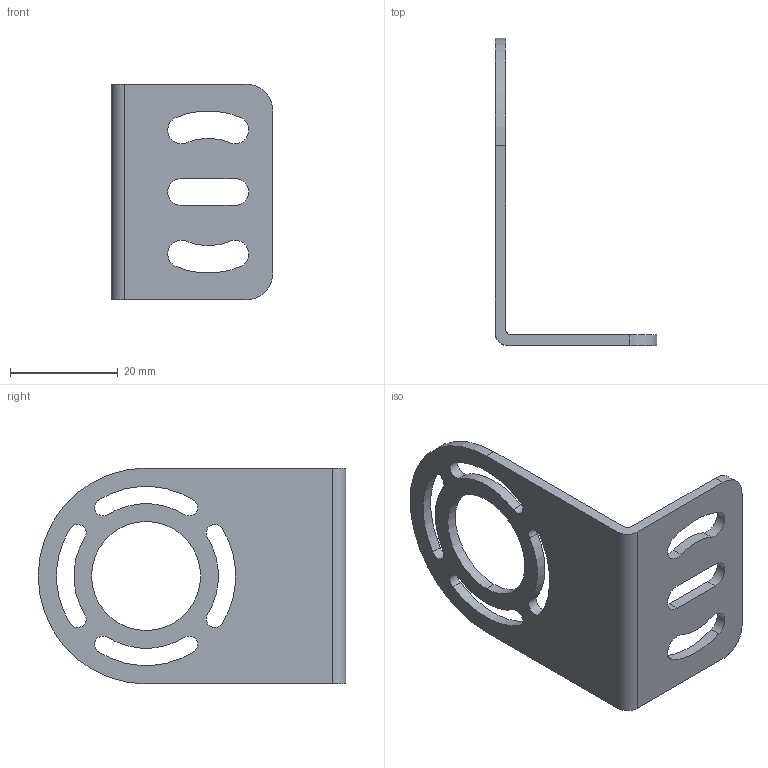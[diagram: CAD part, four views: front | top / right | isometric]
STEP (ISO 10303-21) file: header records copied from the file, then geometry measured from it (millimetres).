
FILE_DESCRIPTION((''),'2;1');
FILE_NAME('40MM_1','2021-11-12T',('僇僇'),(''),'CREO PARAMETRIC BY PTC INC, 2014500','CREO PARAMETRIC BY PTC INC, 2014500','');
FILE_SCHEMA(('CONFIG_CONTROL_DESIGN'));
Length unit declared in the file: millimetre
Products named in the file (1): 40MM_1
Bounding box: 30 x 57 x 40 mm (x, y, z)
Volume: 4827.3 mm3; surface area: 5959.4 mm2
Topology: 1 solids, 1 shells, 42 faces, 120 edges, 80 vertices
Faces by surface type: cylinder 33, plane 9
Entity records: 1480 total; most frequent: DIRECTION 270, CARTESIAN_POINT 242, ORIENTED_EDGE 240, EDGE_CURVE 120, AXIS2_PLACEMENT_3D 108, VERTEX_POINT 80, CIRCLE 66, EDGE_LOOP 58
